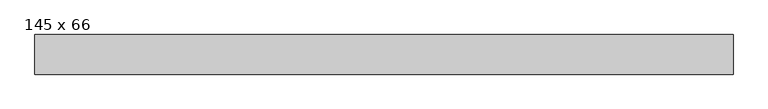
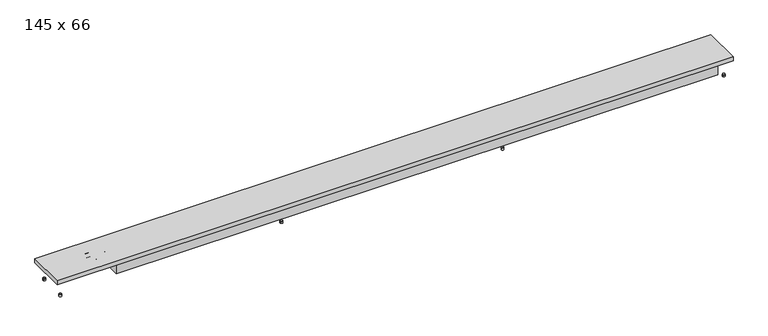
"""IFC4 building model written with IfcOpenShell, lengths in millimetres: proxy geometry, Mohlenhof_Внутрипольный конвектор_QSKM : 145 x 66."""

from ifc_helpers import new_model, si_unit, point, frame, frame_2d, origin, place, context, project, spatial, polyline, circle_curve, trimmed, segment, composite_curve, outline, extrude, source, transform, mapped, element, save
from ifc_brep_helpers import plane_surface, cylinder_surface, revolved_surface, advanced_brep


def proxy_145_x_66_dd4c954e(model_context):
    return source(origin(), model_context, "Body", "SolidModel", [
        extrude(outline(composite_curve([segment(trimmed(circle_curve(frame_2d((-408.3333333, -223.5)), 4.5), [point((-412.8333333, -223.5))], [point((-403.8333333, -223.5))], False, "CARTESIAN"), True, "CONTINUOUS"), segment(trimmed(circle_curve(frame_2d((-408.3333333, -223.5)), 4.5), [point((-403.8333333, -223.5))], [point((-412.8333333, -223.5))], False, "CARTESIAN"), True, "CONTINUOUS")], self_intersect=False)), frame((0.0, 0.0, -79.0), z_axis=(0.0, 0.0, 1.0), x_axis=(1.0, 0.0, 0.0)), (0.0, 0.0, 1.0), 7.0),
        extrude(outline(composite_curve([segment(trimmed(circle_curve(frame_2d((-408.3333333, -223.5)), 4.0), [point((-412.3333333, -223.5))], [point((-404.3333333, -223.5))], False, "CARTESIAN"), True, "CONTINUOUS"), segment(trimmed(circle_curve(frame_2d((-408.3333333, -223.5)), 4.0), [point((-404.3333333, -223.5))], [point((-412.3333333, -223.5))], False, "CARTESIAN"), True, "CONTINUOUS")], self_intersect=False)), frame((0.0, 0.0, -72.0), z_axis=(0.0, 0.0, 1.0), x_axis=(1.0, 0.0, 0.0)), (0.0, 0.0, 1.0), 1.5),
        extrude(outline(composite_curve([segment(trimmed(circle_curve(frame_2d((408.3333333, -223.5)), 4.5), [point((403.8333333, -223.5))], [point((412.8333333, -223.5))], False, "CARTESIAN"), True, "CONTINUOUS"), segment(trimmed(circle_curve(frame_2d((408.3333333, -223.5)), 4.5), [point((412.8333333, -223.5))], [point((403.8333333, -223.5))], False, "CARTESIAN"), True, "CONTINUOUS")], self_intersect=False)), frame((0.0, 0.0, -79.0), z_axis=(0.0, 0.0, 1.0), x_axis=(1.0, 0.0, 0.0)), (0.0, 0.0, 1.0), 7.0),
        extrude(outline(composite_curve([segment(trimmed(circle_curve(frame_2d((408.3333333, -223.5)), 4.0), [point((404.3333333, -223.5))], [point((412.3333333, -223.5))], False, "CARTESIAN"), True, "CONTINUOUS"), segment(trimmed(circle_curve(frame_2d((408.3333333, -223.5)), 4.0), [point((412.3333333, -223.5))], [point((404.3333333, -223.5))], False, "CARTESIAN"), True, "CONTINUOUS")], self_intersect=False)), frame((0.0, 0.0, -72.0), z_axis=(0.0, 0.0, 1.0), x_axis=(1.0, 0.0, 0.0)), (0.0, 0.0, 1.0), 1.5),
        extrude(outline(composite_curve([segment(trimmed(circle_curve(frame_2d((-408.3333333, -121.5)), 4.5), [point((-412.8333333, -121.5))], [point((-403.8333333, -121.5))], False, "CARTESIAN"), True, "CONTINUOUS"), segment(trimmed(circle_curve(frame_2d((-408.3333333, -121.5)), 4.5), [point((-403.8333333, -121.5))], [point((-412.8333333, -121.5))], False, "CARTESIAN"), True, "CONTINUOUS")], self_intersect=False)), frame((0.0, 0.0, -79.0), z_axis=(0.0, 0.0, 1.0), x_axis=(1.0, 0.0, 0.0)), (0.0, 0.0, 1.0), 7.0),
        extrude(outline(composite_curve([segment(trimmed(circle_curve(frame_2d((-408.3333333, -121.5)), 4.0), [point((-412.3333333, -121.5))], [point((-404.3333333, -121.5))], False, "CARTESIAN"), True, "CONTINUOUS"), segment(trimmed(circle_curve(frame_2d((-408.3333333, -121.5)), 4.0), [point((-404.3333333, -121.5))], [point((-412.3333333, -121.5))], False, "CARTESIAN"), True, "CONTINUOUS")], self_intersect=False)), frame((0.0, 0.0, -72.0), z_axis=(0.0, 0.0, 1.0), x_axis=(1.0, 0.0, 0.0)), (0.0, 0.0, 1.0), 1.5),
        extrude(outline(composite_curve([segment(trimmed(circle_curve(frame_2d((408.3333333, -121.5)), 4.5), [point((403.8333333, -121.5))], [point((412.8333333, -121.5))], False, "CARTESIAN"), True, "CONTINUOUS"), segment(trimmed(circle_curve(frame_2d((408.3333333, -121.5)), 4.5), [point((412.8333333, -121.5))], [point((403.8333333, -121.5))], False, "CARTESIAN"), True, "CONTINUOUS")], self_intersect=False)), frame((0.0, 0.0, -79.0), z_axis=(0.0, 0.0, 1.0), x_axis=(1.0, 0.0, 0.0)), (0.0, 0.0, 1.0), 7.0),
        extrude(outline(composite_curve([segment(trimmed(circle_curve(frame_2d((408.3333333, -121.5)), 4.0), [point((404.3333333, -121.5))], [point((412.3333333, -121.5))], False, "CARTESIAN"), True, "CONTINUOUS"), segment(trimmed(circle_curve(frame_2d((408.3333333, -121.5)), 4.0), [point((412.3333333, -121.5))], [point((404.3333333, -121.5))], False, "CARTESIAN"), True, "CONTINUOUS")], self_intersect=False)), frame((0.0, 0.0, -72.0), z_axis=(0.0, 0.0, 1.0), x_axis=(1.0, 0.0, 0.0)), (0.0, 0.0, 1.0), 1.5),
        advanced_brep(
        [(-1040.0, -158.0, -47.5), (-1040.0, -146.0, -47.5), (-1040.0, -170.0, -47.5), (-1027.5, -165.5, -47.5), (-1027.5, -150.5, -47.5), (-1027.5, -158.0, -47.5), (-1035.0, -165.5, -47.5), (-1035.0, -150.5, -47.5)],
        [
            (0, 1),
            (1, 2, circle_curve(frame((-1040.0, -158.0, -47.5), z_axis=(-1.0, 0.0, 0.0), x_axis=(0.0, 1.0, 0.0)), 12.0)),
            (2, 0),
            (2, 1, circle_curve(frame((-1040.0, -158.0, -47.5), z_axis=(-1.0, 0.0, 0.0), x_axis=(0.0, 1.0, 0.0)), 12.0)),
            (3, 4, circle_curve(frame((-1027.5, -158.0, -47.5), z_axis=(1.0, 0.0, 0.0), x_axis=(0.0, 1.0, 0.0)), 7.5)),
            (4, 5),
            (5, 3),
            (4, 3, circle_curve(frame((-1027.5, -158.0, -47.5), z_axis=(1.0, 0.0, 0.0), x_axis=(0.0, 1.0, 0.0)), 7.5)),
            (6, 7, circle_curve(frame((-1035.0, -158.0, -47.5), z_axis=(1.0, 0.0, 0.0), x_axis=(0.0, 1.0, 0.0)), 7.5)),
            (7, 4),
            (3, 6),
            (7, 6, circle_curve(frame((-1035.0, -158.0, -47.5), z_axis=(1.0, 0.0, 0.0), x_axis=(0.0, 1.0, 0.0)), 7.5)),
            (1, 7),
            (6, 2),
        ],
        [
            plane_surface(frame((-1040.0, -158.0, -47.5), z_axis=(-1.0, 0.0, 0.0), x_axis=(0.0, 1.0, 0.0))),
            plane_surface(frame((-1027.5, -158.0, -47.5), z_axis=(1.0, 0.0, 0.0), x_axis=(0.0, 1.0, 0.0))),
            cylinder_surface(frame((-1040.0, -158.0, -47.5), z_axis=(-1.0, 0.0, 0.0), x_axis=(0.0, 1.0, 0.0)), 7.5),
            revolved_surface(polyline([(-1035.0, -150.5, -47.5), (-1040.0, -146.0, -47.5)]), (-1040.0, -158.0, -47.5), (-1.0, 0.0, 0.0)),
        ],
        [
            (0, [[1, 2, 3]]),
            (0, [[-3, 4, -1]]),
            (1, [[5, 6, 7]]),
            (1, [[8, -7, -6]]),
            (2, [[9, 10, -5, 11]]),
            (2, [[12, -11, -8, -10]]),
            (3, [[-2, 13, -9, 14]]),
            (3, [[-4, -14, -12, -13]]),
        ],
    ),
        extrude(outline(polyline([(-158.0, -33.6435935), (-146.0, -40.5717968), (-146.0, -54.4282032), (-158.0, -61.3564065), (-170.0, -54.4282032), (-170.0, -40.5717968), (-158.0, -33.6435935)]), holes=[composite_curve([segment(trimmed(circle_curve(frame_2d((-158.0, -47.5)), 8.5), [point((-149.5, -47.5))], [point((-166.5, -47.5))], True, "CARTESIAN"), True, "CONTINUOUS"), segment(trimmed(circle_curve(frame_2d((-158.0, -47.5)), 8.5), [point((-166.5, -47.5))], [point((-149.5, -47.5))], True, "CARTESIAN"), True, "CONTINUOUS")], self_intersect=False)]), frame((-1051.0, 0.0, 0.0), z_axis=(1.0, 0.0, 0.0), x_axis=(0.0, 1.0, 0.0)), (0.0, 0.0, 1.0), 11.0),
        advanced_brep(
        [(-1064.0, -130.0, -34.5), (-1064.0, -118.0, -34.5), (-1064.0, -142.0, -34.5), (-1051.5, -137.5, -34.5), (-1051.5, -122.5, -34.5), (-1051.5, -130.0, -34.5), (-1059.0, -137.5, -34.5), (-1059.0, -122.5, -34.5)],
        [
            (0, 1),
            (1, 2, circle_curve(frame((-1064.0, -130.0, -34.5), z_axis=(-1.0, 0.0, 0.0), x_axis=(0.0, 1.0, 0.0)), 12.0)),
            (2, 0),
            (2, 1, circle_curve(frame((-1064.0, -130.0, -34.5), z_axis=(-1.0, 0.0, 0.0), x_axis=(0.0, 1.0, 0.0)), 12.0)),
            (3, 4, circle_curve(frame((-1051.5, -130.0, -34.5), z_axis=(1.0, 0.0, 0.0), x_axis=(0.0, 1.0, 0.0)), 7.5)),
            (4, 5),
            (5, 3),
            (4, 3, circle_curve(frame((-1051.5, -130.0, -34.5), z_axis=(1.0, 0.0, 0.0), x_axis=(0.0, 1.0, 0.0)), 7.5)),
            (6, 7, circle_curve(frame((-1059.0, -130.0, -34.5), z_axis=(1.0, 0.0, 0.0), x_axis=(0.0, 1.0, 0.0)), 7.5)),
            (7, 4),
            (3, 6),
            (7, 6, circle_curve(frame((-1059.0, -130.0, -34.5), z_axis=(1.0, 0.0, 0.0), x_axis=(0.0, 1.0, 0.0)), 7.5)),
            (1, 7),
            (6, 2),
        ],
        [
            plane_surface(frame((-1064.0, -130.0, -34.5), z_axis=(-1.0, 0.0, 0.0), x_axis=(0.0, 1.0, 0.0))),
            plane_surface(frame((-1051.5, -130.0, -34.5), z_axis=(1.0, 0.0, 0.0), x_axis=(0.0, 1.0, 0.0))),
            cylinder_surface(frame((-1064.0, -130.0, -34.5), z_axis=(-1.0, 0.0, 0.0), x_axis=(0.0, 1.0, 0.0)), 7.5),
            revolved_surface(polyline([(-1059.0, -122.5, -34.5), (-1064.0, -118.0, -34.5)]), (-1064.0, -130.0, -34.5), (-1.0, 0.0, 0.0)),
        ],
        [
            (0, [[1, 2, 3]]),
            (0, [[-3, 4, -1]]),
            (1, [[5, 6, 7]]),
            (1, [[8, -7, -6]]),
            (2, [[9, 10, -5, 11]]),
            (2, [[12, -11, -8, -10]]),
            (3, [[-2, 13, -9, 14]]),
            (3, [[-4, -14, -12, -13]]),
        ],
    ),
        extrude(outline(polyline([(-130.0, -20.6435935), (-118.0, -27.5717968), (-118.0, -41.4282032), (-130.0, -48.3564065), (-142.0, -41.4282032), (-142.0, -27.5717968), (-130.0, -20.6435935)]), holes=[composite_curve([segment(trimmed(circle_curve(frame_2d((-130.0, -34.5)), 8.5), [point((-121.5, -34.5))], [point((-138.5, -34.5))], True, "CARTESIAN"), True, "CONTINUOUS"), segment(trimmed(circle_curve(frame_2d((-130.0, -34.5)), 8.5), [point((-138.5, -34.5))], [point((-121.5, -34.5))], True, "CARTESIAN"), True, "CONTINUOUS")], self_intersect=False)]), frame((-1075.0, 0.0, 0.0), z_axis=(1.0, 0.0, 0.0), x_axis=(0.0, 1.0, 0.0)), (0.0, 0.0, 1.0), 11.0),
        extrude(outline(composite_curve([segment(trimmed(circle_curve(frame_2d((-1225.0, -223.5)), 4.5), [point((-1229.5, -223.5))], [point((-1220.5, -223.5))], False, "CARTESIAN"), True, "CONTINUOUS"), segment(trimmed(circle_curve(frame_2d((-1225.0, -223.5)), 4.5), [point((-1220.5, -223.5))], [point((-1229.5, -223.5))], False, "CARTESIAN"), True, "CONTINUOUS")], self_intersect=False)), frame((0.0, 0.0, -79.0), z_axis=(0.0, 0.0, 1.0), x_axis=(1.0, 0.0, 0.0)), (0.0, 0.0, 1.0), 7.0),
        extrude(outline(composite_curve([segment(trimmed(circle_curve(frame_2d((-1225.0, -223.5)), 4.0), [point((-1229.0, -223.5))], [point((-1221.0, -223.5))], False, "CARTESIAN"), True, "CONTINUOUS"), segment(trimmed(circle_curve(frame_2d((-1225.0, -223.5)), 4.0), [point((-1221.0, -223.5))], [point((-1229.0, -223.5))], False, "CARTESIAN"), True, "CONTINUOUS")], self_intersect=False)), frame((0.0, 0.0, -72.0), z_axis=(0.0, 0.0, 1.0), x_axis=(1.0, 0.0, 0.0)), (0.0, 0.0, 1.0), 1.5),
        extrude(outline(composite_curve([segment(trimmed(circle_curve(frame_2d((-1225.0, -121.5)), 4.5), [point((-1229.5, -121.5))], [point((-1220.5, -121.5))], False, "CARTESIAN"), True, "CONTINUOUS"), segment(trimmed(circle_curve(frame_2d((-1225.0, -121.5)), 4.5), [point((-1220.5, -121.5))], [point((-1229.5, -121.5))], False, "CARTESIAN"), True, "CONTINUOUS")], self_intersect=False)), frame((0.0, 0.0, -79.0), z_axis=(0.0, 0.0, 1.0), x_axis=(1.0, 0.0, 0.0)), (0.0, 0.0, 1.0), 7.0),
        extrude(outline(composite_curve([segment(trimmed(circle_curve(frame_2d((-1225.0, -121.5)), 4.0), [point((-1229.0, -121.5))], [point((-1221.0, -121.5))], False, "CARTESIAN"), True, "CONTINUOUS"), segment(trimmed(circle_curve(frame_2d((-1225.0, -121.5)), 4.0), [point((-1221.0, -121.5))], [point((-1229.0, -121.5))], False, "CARTESIAN"), True, "CONTINUOUS")], self_intersect=False)), frame((0.0, 0.0, -72.0), z_axis=(0.0, 0.0, 1.0), x_axis=(1.0, 0.0, 0.0)), (0.0, 0.0, 1.0), 1.5),
        extrude(outline(composite_curve([segment(trimmed(circle_curve(frame_2d((1225.0, -223.5)), 4.5), [point((1220.5, -223.5))], [point((1229.5, -223.5))], False, "CARTESIAN"), True, "CONTINUOUS"), segment(trimmed(circle_curve(frame_2d((1225.0, -223.5)), 4.5), [point((1229.5, -223.5))], [point((1220.5, -223.5))], False, "CARTESIAN"), True, "CONTINUOUS")], self_intersect=False)), frame((0.0, 0.0, -79.0), z_axis=(0.0, 0.0, 1.0), x_axis=(1.0, 0.0, 0.0)), (0.0, 0.0, 1.0), 7.0),
        extrude(outline(composite_curve([segment(trimmed(circle_curve(frame_2d((1225.0, -223.5)), 4.0), [point((1221.0, -223.5))], [point((1229.0, -223.5))], False, "CARTESIAN"), True, "CONTINUOUS"), segment(trimmed(circle_curve(frame_2d((1225.0, -223.5)), 4.0), [point((1229.0, -223.5))], [point((1221.0, -223.5))], False, "CARTESIAN"), True, "CONTINUOUS")], self_intersect=False)), frame((0.0, 0.0, -72.0), z_axis=(0.0, 0.0, 1.0), x_axis=(1.0, 0.0, 0.0)), (0.0, 0.0, 1.0), 1.5),
        extrude(outline(composite_curve([segment(trimmed(circle_curve(frame_2d((1225.0, -121.5)), 4.5), [point((1220.5, -121.5))], [point((1229.5, -121.5))], False, "CARTESIAN"), True, "CONTINUOUS"), segment(trimmed(circle_curve(frame_2d((1225.0, -121.5)), 4.5), [point((1229.5, -121.5))], [point((1220.5, -121.5))], False, "CARTESIAN"), True, "CONTINUOUS")], self_intersect=False)), frame((0.0, 0.0, -79.0), z_axis=(0.0, 0.0, 1.0), x_axis=(1.0, 0.0, 0.0)), (0.0, 0.0, 1.0), 7.0),
        extrude(outline(composite_curve([segment(trimmed(circle_curve(frame_2d((1225.0, -121.5)), 4.0), [point((1221.0, -121.5))], [point((1229.0, -121.5))], False, "CARTESIAN"), True, "CONTINUOUS"), segment(trimmed(circle_curve(frame_2d((1225.0, -121.5)), 4.0), [point((1229.0, -121.5))], [point((1221.0, -121.5))], False, "CARTESIAN"), True, "CONTINUOUS")], self_intersect=False)), frame((0.0, 0.0, -72.0), z_axis=(0.0, 0.0, 1.0), x_axis=(1.0, 0.0, 0.0)), (0.0, 0.0, 1.0), 1.5),
        extrude(outline(polyline([(1248.0, -101.6), (1248.0, -243.4), (-1248.0, -243.4), (-1248.0, -101.6), (1248.0, -101.6)])), frame((0.0, 0.0, -15.0), z_axis=(0.0, 0.0, 1.0), x_axis=(1.0, 0.0, 0.0)), (0.0, 0.0, 1.0), 15.0),
        extrude(outline(polyline([(1200.0, -175.87), (1200.0, -227.18), (-1020.0, -227.18), (-1020.0, -175.87), (1200.0, -175.87)])), frame((0.0, 0.0, -62.5), z_axis=(0.0, 0.0, 1.0), x_axis=(1.0, 0.0, 0.0)), (0.0, 0.0, 1.0), 43.62),
        extrude(outline(composite_curve([segment(trimmed(circle_curve(frame_2d((-158.0, -47.5)), 5.0), [point((-163.0, -47.5))], [point((-153.0, -47.5))], False, "CARTESIAN"), True, "CONTINUOUS"), segment(trimmed(circle_curve(frame_2d((-158.0, -47.5)), 5.0), [point((-153.0, -47.5))], [point((-163.0, -47.5))], False, "CARTESIAN"), True, "CONTINUOUS")], self_intersect=False)), frame((-1051.0, 0.0, 0.0), z_axis=(1.0, 0.0, 0.0), x_axis=(0.0, 1.0, 0.0)), (0.0, 0.0, 1.0), 46.0),
        extrude(outline(composite_curve([segment(trimmed(circle_curve(frame_2d((-130.0, -34.5)), 5.0), [point((-135.0, -34.5))], [point((-125.0, -34.5))], False, "CARTESIAN"), True, "CONTINUOUS"), segment(trimmed(circle_curve(frame_2d((-130.0, -34.5)), 5.0), [point((-125.0, -34.5))], [point((-135.0, -34.5))], False, "CARTESIAN"), True, "CONTINUOUS")], self_intersect=False)), frame((-1075.0, 0.0, 0.0), z_axis=(1.0, 0.0, 0.0), x_axis=(0.0, 1.0, 0.0)), (0.0, 0.0, 1.0), 70.0),
    ])


if __name__ == "__main__":
    model = new_model("IFC4")
    model_context = context("Model", 3, world=origin())
    ifc_project = project(units=[si_unit("LENGTHUNIT", "METRE", prefix="MILLI")], contexts=[model_context])
    site = spatial("IfcSite", under=ifc_project)
    building = spatial("IfcBuilding", under=site)
    placement = place(None, origin())
    proxy_145_x_66_shape = proxy_145_x_66_dd4c954e(model_context)
    element("IfcBuildingElementProxy", 1, Name="Mohlenhof_Внутрипольный конвектор_QSKM : 145 x 66", ObjectType="Mohlenhof_Внутрипольный конвектор_QSKM : 145 x 66", at=placement, inside=building, context=model_context, shape_type="MappedRepresentation", body=[
        mapped(proxy_145_x_66_shape, transform((0.0, 0.0, 0.0), x_axis=(1.0, 0.0, 0.0), y_axis=(0.0, 1.0, 0.0), z_axis=(0.0, 0.0, 1.0))),
    ])
    save(model, "model.ifc")
